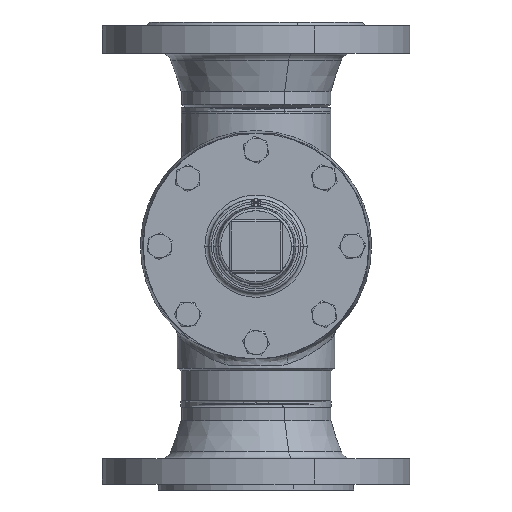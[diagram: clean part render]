
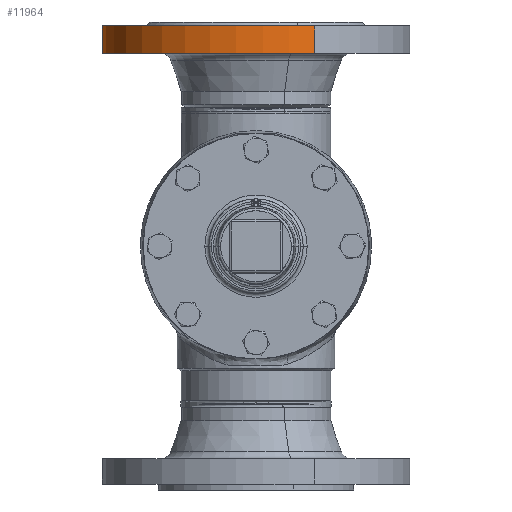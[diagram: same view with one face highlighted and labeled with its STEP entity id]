
A CAD part, front view. The second image highlights one B-rep face of the part: STEP entity #11964.
In plain terms, the highlighted cylindrical face has radius 117.5 mm (diameter 235 mm), a partial arc.
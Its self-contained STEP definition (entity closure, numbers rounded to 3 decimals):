
#479 = CIRCLE ( 'NONE', #480, 117.5 ) ;
#480 = AXIS2_PLACEMENT_3D ( 'NONE', #481, #482, #483 ) ;
#481 = CARTESIAN_POINT ( 'NONE',  ( 0., 24., 0. ) ) ;
#482 = DIRECTION ( 'NONE',  ( 0., 1., 0. ) ) ;
#483 = DIRECTION ( 'NONE',  ( -1., 0., 0. ) ) ;
#3033 = CARTESIAN_POINT ( 'NONE',  ( 117.5, 24., 0. ) ) ;
#3276 = LINE ( 'NONE', #3277, #3278 ) ;
#3277 = CARTESIAN_POINT ( 'NONE',  ( 117.5, 75., 0. ) ) ;
#3278 = VECTOR ( 'NONE', #3279, 1000. ) ;
#3279 = DIRECTION ( 'NONE',  ( 0., 1., 0. ) ) ;
#4978 = EDGE_CURVE ( 'NONE', #24740, #6717, #479, .T. ) ;
#21869 = EDGE_CURVE ( 'NONE', #9326, #24740, #10074, .T. ) ;
#5701 = ORIENTED_EDGE ( 'NONE', *, *, #4978, .F. ) ;
#6179 = CARTESIAN_POINT ( 'NONE',  ( 117.5, 3., 0. ) ) ;
#6505 = CARTESIAN_POINT ( 'NONE',  ( -117.5, 3., 0. ) ) ;
#22913 = ORIENTED_EDGE ( 'NONE', *, *, #21869, .F. ) ;
#6717 = VERTEX_POINT ( 'NONE', #3033 ) ;
#6732 = CIRCLE ( 'NONE', #6733, 117.5 ) ;
#6733 = AXIS2_PLACEMENT_3D ( 'NONE', #6734, #6753, #6754 ) ;
#6734 = CARTESIAN_POINT ( 'NONE',  ( 0., 3., 0. ) ) ;
#6753 = DIRECTION ( 'NONE',  ( 0., 1., 0. ) ) ;
#6754 = DIRECTION ( 'NONE',  ( -1., 0., 0. ) ) ;
#7154 = EDGE_CURVE ( 'NONE', #8897, #6717, #3276, .T. ) ;
#7875 = ORIENTED_EDGE ( 'NONE', *, *, #7154, .T. ) ;
#24740 = VERTEX_POINT ( 'NONE', #13431 ) ;
#8897 = VERTEX_POINT ( 'NONE', #6179 ) ;
#9326 = VERTEX_POINT ( 'NONE', #6505 ) ;
#9758 = EDGE_CURVE ( 'NONE', #9326, #8897, #6732, .T. ) ;
#10074 = LINE ( 'NONE', #10075, #10076 ) ;
#10075 = CARTESIAN_POINT ( 'NONE',  ( -117.5, 75., 0. ) ) ;
#10076 = VECTOR ( 'NONE', #10077, 1000. ) ;
#10077 = DIRECTION ( 'NONE',  ( 0., 1., 0. ) ) ;
#10481 = ORIENTED_EDGE ( 'NONE', *, *, #9758, .T. ) ;
#11491 = EDGE_LOOP ( 'NONE', ( #10481, #7875, #5701, #22913 ) ) ;
#11964 = ADVANCED_FACE ( 'NONE', ( #12416 ), #12417, .T. ) ;
#12416 = FACE_OUTER_BOUND ( 'NONE', #11491, .T. ) ;
#12417 = CYLINDRICAL_SURFACE ( 'NONE', #12418, 117.5 ) ;
#12418 = AXIS2_PLACEMENT_3D ( 'NONE', #12419, #12420, #12421 ) ;
#12419 = CARTESIAN_POINT ( 'NONE',  ( 0., 75., 0. ) ) ;
#12420 = DIRECTION ( 'NONE',  ( 0., 1., 0. ) ) ;
#12421 = DIRECTION ( 'NONE',  ( -1., 0., 0. ) ) ;
#13431 = CARTESIAN_POINT ( 'NONE',  ( -117.5, 24., 0. ) ) ;
